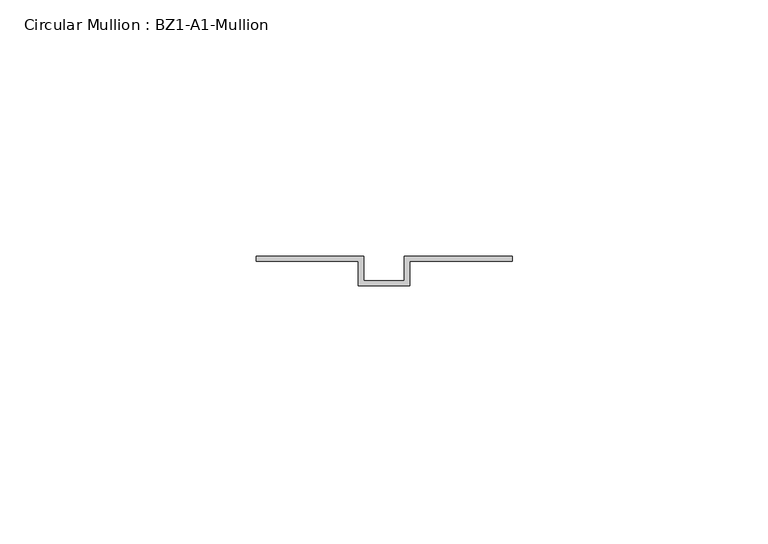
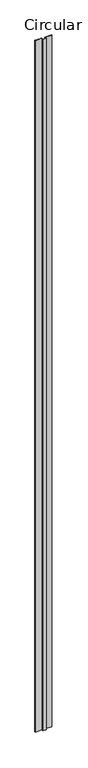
"""IFC4 building model written with IfcOpenShell, lengths in millimetres: member geometry, Circular Mullion : BZ1-A1-Mullion."""

import ifcopenshell
import ifcopenshell.guid

model = None  # the IFC model being written
_history = None  # IfcOwnerHistory: only IFC2X3 demands one
_inside = {}  # id of a spatial element -> (the spatial element, [elements in it])
_under = {}  # id of a project, library or spatial element -> (it, [spatial elements below it])
_declared = {}  # id of a project -> (the project, [libraries it declares])
_typed = {}  # id of a type object -> (the type object, [elements of that type])
_made_of = {}  # id of a material, layer set ... -> (it, [elements and type objects made of it])


def new_model(schema):
    """Start an empty IFC model of exactly this schema.

    Asked for "IFC4X3", IfcOpenShell would pick the latest addendum, in which some entities
    have other attributes; the version numbers below select the first issue.
    IFC2X3 requires an IfcOwnerHistory on every rooted entity: one is made here for all.
    """
    global model, _history
    if schema == "IFC4X3":
        model = ifcopenshell.file(schema_version=(4, 3, 0, 0))
    else:
        model = ifcopenshell.file(schema=schema)
    _inside.clear()
    _under.clear()
    _declared.clear()
    _typed.clear()
    _made_of.clear()
    _history = None
    if model.schema == "IFC2X3":
        org = make("IfcOrganization", Name="unknown")
        user = make(
            "IfcPersonAndOrganization",
            ThePerson=make("IfcPerson", FamilyName="unknown"),
            TheOrganization=org,
        )
        app = make(
            "IfcApplication",
            ApplicationDeveloper=org,
            Version="unknown",
            ApplicationFullName="unknown",
            ApplicationIdentifier="unknown",
        )
        _history = make(
            "IfcOwnerHistory",
            OwningUser=user,
            OwningApplication=app,
            ChangeAction="ADDED",
            CreationDate=0,
        )
    return model


def make(cls, **values):
    """One entity of the class cls with the attributes given. An attribute that is None is left unset."""
    return model.create_entity(
        cls, **{name: value for name, value in values.items() if value is not None}
    )


def rooted(cls, **values):
    """An entity with a GlobalId (a new one), such as an element, a storey or a relation."""
    return make(cls, GlobalId=ifcopenshell.guid.new(), OwnerHistory=_history, **values)


def si_unit(unit_type, name, prefix=None):
    """IfcSIUnit, for example si_unit("LENGTHUNIT", "METRE", prefix="MILLI")."""
    return make("IfcSIUnit", UnitType=unit_type, Prefix=prefix, Name=name)


def assignment(units):
    """IfcUnitAssignment: the units of a project."""
    return None if units is None else make("IfcUnitAssignment", Units=units)


def point(xyz):
    """IfcCartesianPoint."""
    return None if xyz is None else make("IfcCartesianPoint", Coordinates=xyz)


def direction(xyz):
    """IfcDirection."""
    return None if xyz is None else make("IfcDirection", DirectionRatios=xyz)


def frame(location, z_axis=None, x_axis=None):
    """IfcAxis2Placement3D, a coordinate frame: its origin and axes. An axis left out is left unset."""
    return make(
        "IfcAxis2Placement3D",
        Location=point(location),
        Axis=direction(z_axis),
        RefDirection=direction(x_axis),
    )


def origin():
    """The frame at (0, 0, 0) with its axes left unset."""
    return frame((0.0, 0.0, 0.0))


def place(relative_to, where):
    """IfcLocalPlacement: puts the frame where relative to a parent placement (None: the world)."""
    return make(
        "IfcLocalPlacement", PlacementRelTo=relative_to, RelativePlacement=where
    )


def context(
    kind, dimensions, precision=None, world=None, true_north=None, identifier=None
):
    """IfcGeometricRepresentationContext, for example the 3D "Model" context."""
    return make(
        "IfcGeometricRepresentationContext",
        ContextIdentifier=identifier,
        ContextType=kind,
        CoordinateSpaceDimension=dimensions,
        Precision=precision,
        WorldCoordinateSystem=world,
        TrueNorth=true_north,
    )


def project(units=None, contexts=None):
    """IfcProject with its units and contexts."""
    return rooted(
        "IfcProject",
        Name="project",
        RepresentationContexts=contexts,
        UnitsInContext=assignment(units),
    )


def spatial(cls, under=None, at=None, **own):
    """A site, building, storey or space (cls), placed at a placement, below another one or the project."""
    s = rooted(cls, ObjectPlacement=at, **own)
    if under is not None:
        _under.setdefault(under.id(), (under, []))[1].append(s)
    return s


def polyline(points):
    """IfcPolyline through the points."""
    return make("IfcPolyline", Points=[point(p) for p in points])


def outline(outer, holes=None, kind="AREA"):
    """IfcArbitraryClosedProfileDef: a profile drawn as a closed curve; with holes, ...WithVoids."""
    if holes is None:
        return make("IfcArbitraryClosedProfileDef", ProfileType=kind, OuterCurve=outer)
    return make(
        "IfcArbitraryProfileDefWithVoids",
        ProfileType=kind,
        OuterCurve=outer,
        InnerCurves=holes,
    )


def extrude(swept, where, along, depth):
    """IfcExtrudedAreaSolid: the profile swept, set in the frame where, extruded along a direction by depth."""
    return make(
        "IfcExtrudedAreaSolid",
        SweptArea=swept,
        Position=where,
        ExtrudedDirection=direction(along),
        Depth=depth,
    )


def shape(context_of_items, identifier, shape_type, items):
    """IfcShapeRepresentation: the items that make up one representation, for example the "Body"."""
    return make(
        "IfcShapeRepresentation",
        ContextOfItems=context_of_items,
        RepresentationIdentifier=identifier,
        RepresentationType=shape_type,
        Items=items,
    )


def source(mapping_origin, context_of_items, identifier, shape_type, items):
    """IfcRepresentationMap: a shape defined once, which mapped items show again and again."""
    return make(
        "IfcRepresentationMap",
        MappingOrigin=mapping_origin,
        MappedRepresentation=shape(context_of_items, identifier, shape_type, items),
    )


def transform(
    local_origin,
    x_axis=None,
    y_axis=None,
    z_axis=None,
    scale=None,
    scale2=None,
    scale3=None,
    uniform=True,
):
    """IfcCartesianTransformationOperator3D, or its non-uniform kind. x_axis, y_axis, z_axis: its Axis1, 2, 3."""
    if uniform:
        return make(
            "IfcCartesianTransformationOperator3D",
            Axis1=direction(x_axis),
            Axis2=direction(y_axis),
            LocalOrigin=point(local_origin),
            Scale=scale,
            Axis3=direction(z_axis),
        )
    return make(
        "IfcCartesianTransformationOperator3DnonUniform",
        Axis1=direction(x_axis),
        Axis2=direction(y_axis),
        LocalOrigin=point(local_origin),
        Scale=scale,
        Axis3=direction(z_axis),
        Scale2=scale2,
        Scale3=scale3,
    )


def mapped(mapping_source, mapping_target):
    """IfcMappedItem: shows the shape of a source again, moved by a transform."""
    return make(
        "IfcMappedItem", MappingSource=mapping_source, MappingTarget=mapping_target
    )


def made_of(thing, what):
    """Note that an element or type object is made of a material, layer set ...; save() writes the relation."""
    if what is not None:
        _made_of.setdefault(what.id(), (what, []))[1].append(thing)
    return thing


def element(
    cls,
    number,
    at=None,
    inside=None,
    cuts=None,
    type_object=None,
    material=None,
    context=None,
    identifier="Body",
    shape_type=None,
    held_by="IfcProductDefinitionShape",
    body=None,
    shapes=None,
    **own,
):
    """One element of the class cls, such as IfcWall. Its Tag is "e" and its number.

    at: its placement. inside: the storey or other place that contains it. cuts: it is an
    opening in that element (IfcRelVoidsElement). A single representation is given by context,
    identifier, shape_type and body (its items); several are given by shapes. held_by: the class
    of the entity that holds the representations. save() writes the other relations.
    """
    e = rooted(cls, Tag="e%d" % number, ObjectPlacement=at, **own)
    if body is not None:
        shapes = [shape(context, identifier, shape_type, body)]
    if shapes is not None:
        e.Representation = make(held_by, Representations=shapes)
    if inside is not None:
        _inside.setdefault(inside.id(), (inside, []))[1].append(e)
    if cuts is not None:
        rooted(
            "IfcRelVoidsElement", RelatingBuildingElement=cuts, RelatedOpeningElement=e
        )
    if type_object is not None:
        _typed.setdefault(type_object.id(), (type_object, []))[1].append(e)
    return made_of(e, material)


def aggregate(whole, parts):
    """IfcRelAggregates: a whole, such as a stair, and the parts it consists of."""
    return rooted("IfcRelAggregates", RelatingObject=whole, RelatedObjects=parts)


def save(model, path):
    """Write the relations noted so far, then the file.

    IfcRelAggregates (storeys below a building ...), IfcRelContainedInSpatialStructure (elements
    in a storey), IfcRelDefinesByType, IfcRelAssociatesMaterial and IfcRelDeclares: one each for
    every whole, place, type object, material and project.
    """
    for whole, parts in _under.values():
        aggregate(whole, parts)
    for where, things in _inside.values():
        rooted(
            "IfcRelContainedInSpatialStructure",
            RelatedElements=things,
            RelatingStructure=where,
        )
    for kind, things in _typed.values():
        rooted("IfcRelDefinesByType", RelatedObjects=things, RelatingType=kind)
    for what, things in _made_of.values():
        rooted("IfcRelAssociatesMaterial", RelatedObjects=things, RelatingMaterial=what)
    for by, libraries in _declared.values():
        rooted("IfcRelDeclares", RelatingContext=by, RelatedDefinitions=libraries)
    model.write(path)


def circular_mullion_bz1_a1_mullion_619e8430(model_context):
    return source(origin(), model_context, "Body", "SweptSolid", [
        extrude(outline(polyline([(-25.0, 11.0), (-4.0, 11.0), (-4.0, 6.2), (4.0, 6.2), (4.0, 11.0), (25.0, 11.0), (25.0, 10.0), (5.0, 10.0), (5.0, 5.2), (-5.0, 5.2), (-5.0, 10.0), (-25.0, 10.0), (-25.0, 11.0)])), frame((0.0, 0.0, -2195.0), z_axis=(0.0, 0.0, 1.0), x_axis=(1.0, 0.0, 0.0)), (0.0, 0.0, 1.0), 2195.0),
    ])


if __name__ == "__main__":
    model = new_model("IFC4")
    model_context = context("Model", 3, world=origin())
    ifc_project = project(units=[si_unit("LENGTHUNIT", "METRE", prefix="MILLI")], contexts=[model_context])
    site = spatial("IfcSite", under=ifc_project)
    building = spatial("IfcBuilding", under=site)
    placement = place(None, origin())
    circular_mullion_bz1_a1_mullion_shape = circular_mullion_bz1_a1_mullion_619e8430(model_context)
    element("IfcMember", 1, ObjectType="Circular Mullion : BZ1-A1-Mullion", at=placement, inside=building, context=model_context, shape_type="MappedRepresentation", body=[
        mapped(circular_mullion_bz1_a1_mullion_shape, transform((0.0, 0.0, 0.0), x_axis=(1.0, 0.0, 0.0), y_axis=(0.0, 1.0, 0.0), z_axis=(0.0, 0.0, 1.0))),
    ])
    save(model, "model.ifc")
